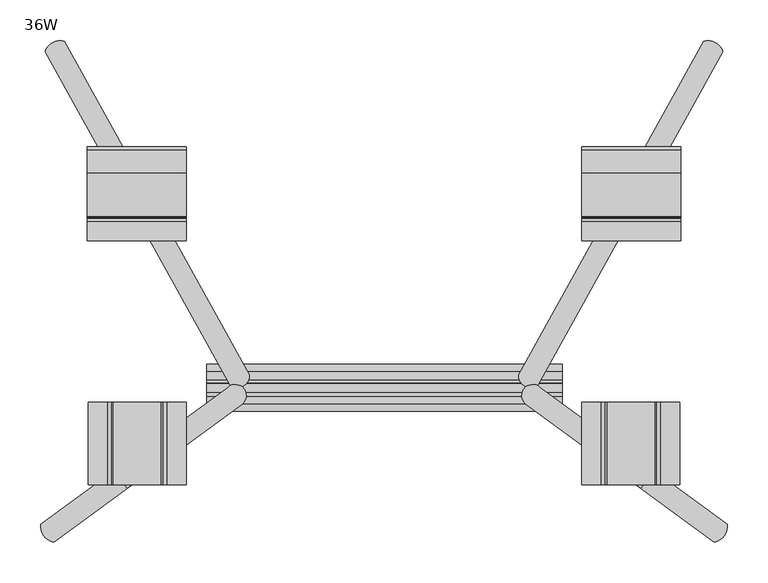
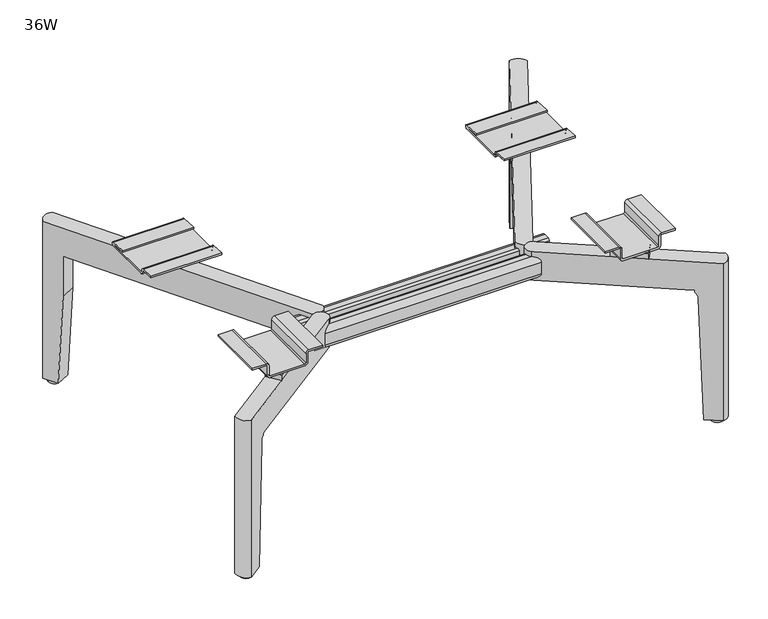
"""IFC4 building model written with IfcOpenShell, lengths in millimetres: furniture geometry, Steelcase Turnstone - Bivi - Seat - Rumble Seat - Freestanding Leg : 36W."""

from ifc_helpers import new_model, si_unit, point, frame, frame_2d, origin, place, context, project, spatial, polyline, circle_curve, ellipse_curve, trimmed, segment, composite_curve, outline, extrude, source, transform, mapped, element, save
from ifc_brep_helpers import plane_surface, cylinder_surface, revolved_surface, advanced_brep


def furniture_36w_9987a5bf(model_context):
    return source(origin(), model_context, "Body", "SolidModel", [
        advanced_brep(
        [(-295.1872157, 399.932442, 6.3507797), (-296.6305197, 399.6401574, 0.0), (-290.0695853, 403.2769427, 0.0), (-291.0822913, 402.2078387, 6.3507797), (-308.0517385, 409.6947013, 6.3507797), (-287.7791129, 409.6947013, 6.3507797), (-287.7791129, 409.6947013, 0.0), (-308.0517385, 409.6947013, 0.0)],
        [
            (0, 1, ellipse_curve(frame((-297.9154257, 409.6947013, -134.6670445), z_axis=(0.4836286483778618, -0.872489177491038, -0.06975647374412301), x_axis=(0.03381860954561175, -0.061010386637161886, 0.9975640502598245)), 145.3099945, 10.1363128)),
            (1, 2),
            (2, 3, ellipse_curve(frame((-297.9154257, 409.6947013, -134.6670445), z_axis=(0.4836286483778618, -0.872489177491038, -0.06975647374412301), x_axis=(0.03381860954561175, -0.061010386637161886, 0.9975640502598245)), 145.3099945, 10.1363128)),
            (3, 0),
            (4, 0, circle_curve(frame((-297.9154257, 409.6947013, 6.3507797), z_axis=(0.0, 0.0, 1.0), x_axis=(1.0, 0.0, 0.0)), 10.1363128)),
            (3, 5, circle_curve(frame((-297.9154257, 409.6947013, 6.3507797), z_axis=(0.0, 0.0, 1.0), x_axis=(1.0, 0.0, 0.0)), 10.1363128)),
            (5, 4, circle_curve(frame((-297.9154257, 409.6947013, 6.3507797), z_axis=(0.0, 0.0, 1.0), x_axis=(1.0, 0.0, 0.0)), 10.1363128)),
            (6, 2, circle_curve(frame((-297.9154257, 409.6947013, 0.0), z_axis=(0.0, 0.0, -1.0), x_axis=(1.0, 0.0, 0.0)), 10.1363128)),
            (1, 7, circle_curve(frame((-297.9154257, 409.6947013, 0.0), z_axis=(0.0, 0.0, -1.0), x_axis=(1.0, 0.0, 0.0)), 10.1363128)),
            (7, 6, circle_curve(frame((-297.9154257, 409.6947013, 0.0), z_axis=(0.0, 0.0, -1.0), x_axis=(1.0, 0.0, 0.0)), 10.1363128)),
            (6, 5),
            (4, 7),
        ],
        [
            plane_surface(frame((-19.1212018, 535.4370031, 225.5013372), z_axis=(0.4836286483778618, -0.872489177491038, -0.06975647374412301), x_axis=(-0.8746197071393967, -0.48480962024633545, 0.0))),
            plane_surface(frame((-294.0743526, -171.9895532, 6.3507797), z_axis=(0.0, 0.0, 1.0), x_axis=(0.0, -1.0, 0.0))),
            plane_surface(frame((-294.0743526, -171.9895532, 0.0), z_axis=(0.0, 0.0, -1.0), x_axis=(0.0, 1.0, 0.0))),
            cylinder_surface(frame((-297.9154257, 409.6947013, 0.0), z_axis=(0.0, 0.0, 1.0), x_axis=(1.0, 0.0, 0.0)), 10.1363128),
        ],
        [
            (0, [[1, 2, 3, 4]]),
            (1, [[5, -4, 6, 7]]),
            (2, [[8, -2, 9, 10]]),
            (3, [[-6, -3, -8, 11]]),
            (3, [[-9, -1, -5, 12]]),
            (3, [[-11, -10, -12, -7]]),
        ],
    ),
        advanced_brep(
        [(-313.7761001, -171.9895532, 6.3507797), (-294.0743526, -171.9895532, 6.3507797), (-313.7761001, -171.9895532, 0.0), (-294.0743526, -171.9895532, 0.0)],
        [
            (0, 1, circle_curve(frame((-303.9252263, -171.9895532, 6.3507797), z_axis=(0.0, 0.0, 1.0), x_axis=(1.0, 0.0, 0.0)), 9.8508738)),
            (1, 0, circle_curve(frame((-303.9252263, -171.9895532, 6.3507797), z_axis=(0.0, 0.0, 1.0), x_axis=(1.0, 0.0, 0.0)), 9.8508738)),
            (2, 3, circle_curve(frame((-303.9252263, -171.9895532, 0.0), z_axis=(0.0, 0.0, -1.0), x_axis=(1.0, 0.0, 0.0)), 9.8508738)),
            (3, 2, circle_curve(frame((-303.9252263, -171.9895532, 0.0), z_axis=(0.0, 0.0, -1.0), x_axis=(1.0, 0.0, 0.0)), 9.8508738)),
            (0, 2),
            (3, 1),
        ],
        [
            plane_surface(frame((-294.0743526, -171.9895532, 6.3507797), z_axis=(0.0, 0.0, 1.0), x_axis=(0.0, -1.0, 0.0))),
            plane_surface(frame((-294.0743526, -171.9895532, 0.0), z_axis=(0.0, 0.0, -1.0), x_axis=(0.0, 1.0, 0.0))),
            cylinder_surface(frame((-303.9252263, -171.9895532, 0.0), z_axis=(0.0, 0.0, 1.0), x_axis=(1.0, 0.0, 0.0)), 9.8508738),
        ],
        [
            (0, [[1, 2]]),
            (1, [[3, 4]]),
            (2, [[5, -4, 6, -1]]),
            (2, [[-6, -3, -5, -2]]),
        ],
    ),
        advanced_brep(
        [(-304.8986492, -189.9876549, 6.7022799), (-304.8986492, -189.9876549, 292.4522799), (-320.845595, -168.2156528, 292.4522799), (-320.845595, -168.2156528, 6.7022799), (-88.1480448, 2.2241264, 241.2086832), (-88.1480448, 2.2241264, 292.4522799), (-72.201099, -19.5478757, 292.4522799), (-72.201099, -19.5478757, 241.2086832), (-295.9739133, -149.9983405, 6.7022799), (-280.4910037, -172.1102269, 6.7022799), (-74.974437, -21.5792126, 241.2086832), (-258.411575, -155.9381058, 241.2086832), (-273.8944845, -133.8262194, 241.2086832), (-90.9213829, 0.1927895, 241.2086832), (-285.6160295, -142.4116881, 241.2086832), (-278.945345, -137.5257321, 241.2086832), (-263.4624355, -159.6376185, 241.2086832), (-269.6690837, -164.1836902, 241.2086832), (-74.974437, -21.5792126, 292.4522799), (-274.3260884, -167.5947225, 225.4829664), (-269.6690837, -164.1836902, 237.4952058), (-90.9213829, 0.1927895, 292.4522799), (-285.6160295, -142.4116881, 236.9772021), (-289.8089979, -145.4828361, 225.4829664)],
        [
            (0, 1),
            (1, 2, circle_curve(frame((-301.6756915, -170.9008062, 292.4522799), z_axis=(0.0, 0.0, -1.0), x_axis=(1.0, 0.0, 0.0)), 19.3570465)),
            (2, 3),
            (3, 0, circle_curve(frame((-301.6756915, -170.9008062, 6.7022799), z_axis=(0.0, 0.0, 1.0), x_axis=(1.0, 0.0, 0.0)), 19.3570465)),
            (4, 5),
            (5, 6, circle_curve(frame((-81.5612409, -9.6775431, 292.4522799), z_axis=(0.0, 0.0, -1.0), x_axis=(1.0, 0.0, 0.0)), 13.6027836)),
            (6, 7),
            (7, 4, circle_curve(frame((-81.5612409, -9.6775431, 241.2086832), z_axis=(0.0, 0.0, 1.0), x_axis=(1.0, 0.0, 0.0)), 13.6027836)),
            (3, 8),
            (8, 9),
            (9, 0),
            (7, 10),
            (10, 11),
            (11, 12),
            (12, 13),
            (13, 4),
            (14, 15),
            (15, 16),
            (16, 17),
            (17, 14),
            (6, 18),
            (18, 1),
            (9, 19),
            (19, 20, ellipse_curve(frame((-260.9370052, -157.7878621, 224.9035373), z_axis=(-0.5909011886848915, 0.8067439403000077, 0.0), x_axis=(0.8067439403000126, 0.5909011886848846, 0.0)), 16.6065634, 16.6027928)),
            (20, 17),
            (16, 11, ellipse_curve(frame((-260.9370052, -157.7878621, 224.9035373), z_axis=(-0.5909011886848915, 0.8067439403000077, 0.0), x_axis=(0.8067439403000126, 0.5909011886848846, 0.0)), 16.6065634, 16.6027928)),
            (5, 21),
            (21, 2),
            (12, 15, ellipse_curve(frame((-276.4199148, -135.6759757, 224.9035373), z_axis=(0.5909011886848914, -0.8067439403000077, 0.0), x_axis=(0.8067439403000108, 0.5909011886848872, 0.0)), 16.6065634, 16.6027928)),
            (14, 22),
            (22, 23, ellipse_curve(frame((-276.4199148, -135.6759757, 224.9035373), z_axis=(0.5909011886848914, -0.8067439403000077, 0.0), x_axis=(0.8067439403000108, 0.5909011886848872, 0.0)), 16.6065634, 16.6027928)),
            (23, 8),
            (20, 22, ellipse_curve(frame((30.4151608, -573.8818773, 224.9035373), z_axis=(-0.8067439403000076, -0.5909011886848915, 0.0), x_axis=(-0.5909011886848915, 0.8067439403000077, 0.0)), 779.1591647, 16.6027928)),
            (23, 19),
        ],
        [
            cylinder_surface(frame((-301.6756915, -170.9008062, 0.0), z_axis=(0.0, 0.0, -1.0), x_axis=(1.0, 0.0, 0.0)), 19.3570465),
            cylinder_surface(frame((-81.5612409, -9.6775431, 0.0), z_axis=(0.0, 0.0, -1.0), x_axis=(1.0, 0.0, 0.0)), 13.6027836),
            plane_surface(frame((-319.0720796, -183.4559971, 6.7022799), z_axis=(0.0, 0.0, -1.0), x_axis=(-0.5909011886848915, 0.8067439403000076, 0.0))),
            plane_surface(frame((-64.6320693, 19.448449, 241.2086832), z_axis=(0.0, 0.0, -1.0000000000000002), x_axis=(-0.8067439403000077, -0.5909011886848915, 0.0))),
            plane_surface(frame((-48.6851234, -2.3235531, 241.2086832), z_axis=(0.5909011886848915, -0.8067439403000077, 0.0), x_axis=(-0.8067439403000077, -0.5909011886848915, 0.0))),
            plane_surface(frame((-48.6851234, -2.3235531, 292.4522799), z_axis=(0.0, 0.0, 1.0), x_axis=(-0.8067439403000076, -0.5909011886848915, 0.0))),
            plane_surface(frame((-64.6320693, 19.448449, 292.4522799), z_axis=(-0.5909011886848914, 0.8067439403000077, 0.0), x_axis=(-0.8067439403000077, -0.5909011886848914, 0.0))),
            plane_surface(frame((-285.6160295, -142.4116881, 241.2086832), z_axis=(0.8067439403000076, 0.5909011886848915, 0.0), x_axis=(0.0, 0.0, -1.0))),
            plane_surface(frame((-456.8251095, 93.0408907, 225.4829664), z_axis=(0.818653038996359, 0.5732270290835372, -0.0348994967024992), x_axis=(0.5735764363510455, -0.8191520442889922, 0.0))),
            revolved_surface(polyline([(-263.02267036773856, -125.86313761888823, 224.9035373), (-247.13382624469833, -148.55475868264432, 224.9035373)]), (-67.9387786, -433.4178947, 224.9035373), (-0.5735764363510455, 0.8191520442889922, 0.0)),
            revolved_surface(polyline([(-402.790492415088, 73.74599884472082, 224.9035373), (490.8212374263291, -1202.463811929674, 224.9035373)]), (-67.9387786, -433.4178947, 224.9035373), (-0.5735764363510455, 0.8191520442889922, 0.0)),
        ],
        [
            (0, [[1, 2, 3, 4]]),
            (1, [[5, 6, 7, 8]]),
            (2, [[9, 10, 11, -4]]),
            (3, [[-8, 12, 13, 14, 15, 16]]),
            (3, [[17, 18, 19, 20]]),
            (4, [[-7, 21, 22, -1, -11, 23, 24, 25, -19, 26, -13, -12]]),
            (5, [[-21, -6, 27, 28, -2, -22]]),
            (6, [[-15, 29, -17, 30, 31, 32, -9, -3, -28, -27, -5, -16]]),
            (7, [[-25, 33, -30, -20]]),
            (8, [[-23, -10, -32, 34]]),
            (9, [[-29, -14, -26, -18]]),
            (10, [[-31, -33, -24, -34]]),
        ],
    ),
        advanced_brep(
        [(-291.6228363, 426.4865494, 6.7022799), (-278.6033284, 402.9987354, 6.7022799), (-302.2071278, 389.9149358, 6.7022799), (-315.2266357, 413.4027498, 6.7022799), (-274.4861118, 395.57108, 241.2086832), (-268.7486203, 385.2203713, 241.2086832), (-64.1143407, 16.0503586, 241.2086832), (-87.7181401, 2.966559, 241.2086832), (-292.3524196, 372.1365716, 241.2086832), (-298.0899112, 382.4872804, 241.2086832), (-64.1143407, 16.0503586, 292.4522799), (-274.4861118, 395.57108, 168.7476885), (-291.6228363, 426.4865494, 292.4522799), (-315.2266357, 413.4027498, 292.4522799), (-87.7181401, 2.966559, 292.4522799), (-298.0899112, 382.4872804, 168.7476885)],
        [
            (0, 1),
            (1, 2),
            (2, 3),
            (3, 0, circle_curve(frame((-296.8160983, 408.0223516, 6.7022799), z_axis=(0.0, 0.0, -1.0), x_axis=(1.0, 0.0, 0.0)), 19.1806301)),
            (4, 5),
            (5, 6),
            (6, 7, circle_curve(frame((-79.0045965, 15.0800008, 241.2086832), z_axis=(0.0, 0.0, -1.0), x_axis=(1.0, 0.0, 0.0)), 14.9218401)),
            (7, 8),
            (8, 9),
            (9, 4),
            (10, 6),
            (4, 11),
            (11, 1),
            (0, 12),
            (12, 10),
            (12, 13, circle_curve(frame((-296.8160983, 408.0223516, 292.4522799), z_axis=(0.0, 0.0, 1.0), x_axis=(1.0, 0.0, 0.0)), 19.1806301)),
            (13, 14),
            (14, 10, circle_curve(frame((-79.0045965, 15.0800008, 292.4522799), z_axis=(0.0, 0.0, 1.0), x_axis=(1.0, 0.0, 0.0)), 14.9218401)),
            (13, 3),
            (2, 15),
            (15, 9),
            (7, 14),
            (15, 11),
        ],
        [
            plane_surface(frame((-311.2632247, 433.7747682, 6.7022799), z_axis=(0.0, 0.0, -1.0000000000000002), x_axis=(-0.8746197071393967, -0.4848096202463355, 0.0))),
            plane_surface(frame((-46.3233291, -16.045476, 241.2086832), z_axis=(0.0, 0.0, -1.0), x_axis=(-0.48480962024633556, 0.8746197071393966, 0.0))),
            plane_surface(frame((-46.3233291, -16.045476, 292.4522799), z_axis=(0.8746197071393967, 0.48480962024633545, 0.0), x_axis=(-0.48480962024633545, 0.8746197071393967, 0.0))),
            plane_surface(frame((-69.9271285, -29.1292756, 292.4522799), z_axis=(0.0, 0.0, 1.0), x_axis=(-0.48480962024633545, 0.8746197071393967, 0.0))),
            plane_surface(frame((-69.9271285, -29.1292756, 241.2086832), z_axis=(-0.8746197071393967, -0.4848096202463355, 0.0), x_axis=(-0.4848096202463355, 0.8746197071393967, 0.0))),
            plane_surface(frame((-274.4861118, 395.57108, 241.2086832), z_axis=(0.48480962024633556, -0.8746197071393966, 0.0), x_axis=(0.0, 0.0, -1.0))),
            cylinder_surface(frame((-296.8160983, 408.0223516, 0.0), z_axis=(0.0, 0.0, -1.0), x_axis=(1.0, 0.0, 0.0)), 19.1806301),
            cylinder_surface(frame((-79.0045965, 15.0800008, 0.0), z_axis=(0.0, 0.0, -1.0), x_axis=(1.0, 0.0, 0.0)), 14.9218401),
            plane_surface(frame((-18.3942444, 534.1255371, 225.4824396), z_axis=(0.4841452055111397, -0.8734210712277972, -0.05233595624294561), x_axis=(-0.8746197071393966, -0.48480962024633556, 0.0))),
        ],
        [
            (0, [[1, 2, 3, 4]]),
            (1, [[5, 6, 7, 8, 9, 10]]),
            (2, [[11, -6, -5, 12, 13, -1, 14, 15]]),
            (3, [[16, 17, 18, -15]]),
            (4, [[19, -3, 20, 21, -9, -8, 22, -17]]),
            (5, [[-21, 23, -12, -10]]),
            (6, [[-19, -16, -14, -4]]),
            (7, [[-11, -18, -22, -7]]),
            (8, [[-13, -23, -20, -2]]),
        ],
    ),
        extrude(outline(polyline([(-207.5578492, 274.8292982), (-179.0259823, 223.3564477), (-202.134299, 210.5472986), (-230.6661659, 262.0201491), (-207.5578492, 274.8292982)])), frame((0.0, 0.0, 292.4522799), z_axis=(0.0, 0.0, 1.0), x_axis=(1.0, 0.0, 0.0)), (0.0, 0.0, 1.0), 9.681731),
        extrude(outline(polyline([(-183.4520912, -67.5815101), (-167.5051453, -89.3535122), (-214.4355659, -123.7277912), (-230.3825117, -101.9557892), (-183.4520912, -67.5815101)])), frame((0.0, 0.0, 292.4522799), z_axis=(0.0, 0.0, 1.0), x_axis=(1.0, 0.0, 0.0)), (0.0, 0.0, 1.0), 9.681731),
        extrude(outline(composite_curve([segment(polyline([(329.0146194, -238.8693137), (329.0146194, -262.2516146), (326.1962261, -262.2516146), (326.1962261, -236.8520022), (307.319003, -236.8520022)]), True, "CONTINUOUS"), segment(trimmed(circle_curve(frame_2d((307.319003, -231.6670101)), 5.1849921), [point((307.319003, -236.8520022))], [point((302.1340108, -231.6670101))], False, "CARTESIAN"), True, "CONTINUOUS"), segment(polyline([(302.1340108, -231.6670101), (302.1340108, -172.2542641)]), True, "CONTINUOUS"), segment(trimmed(circle_curve(frame_2d((307.319003, -172.2542641)), 5.1849921), [point((302.1340108, -172.2542641))], [point((307.319003, -167.069272))], False, "CARTESIAN"), True, "CONTINUOUS"), segment(polyline([(307.319003, -167.069272), (326.1962261, -167.069272), (326.1962261, -141.6696595), (329.0146194, -141.6696595), (329.0146194, -165.0519605)]), True, "CONTINUOUS"), segment(trimmed(circle_curve(frame_2d((323.9591212, -165.0519605)), 5.0554981), [point((329.0146194, -165.0519605))], [point((323.9591212, -170.1074586))], False, "CARTESIAN"), True, "CONTINUOUS"), segment(polyline([(323.9591212, -170.1074586), (307.4106461, -170.1074586)]), True, "CONTINUOUS"), segment(trimmed(circle_curve(frame_2d((307.4106461, -172.3462524)), 2.2387938), [point((307.4106461, -170.1074586))], [point((305.1718523, -172.3462524))], True, "CARTESIAN"), True, "CONTINUOUS"), segment(polyline([(305.1718523, -172.3462524), (305.1718523, -231.5750218)]), True, "CONTINUOUS"), segment(trimmed(circle_curve(frame_2d((307.4106461, -231.5750218)), 2.2387938), [point((305.1718523, -231.5750218))], [point((307.4106461, -233.8138155))], True, "CARTESIAN"), True, "CONTINUOUS"), segment(polyline([(307.4106461, -233.8138155), (323.9591212, -233.8138155)]), True, "CONTINUOUS"), segment(trimmed(circle_curve(frame_2d((323.9591212, -238.8693137)), 5.0554981), [point((323.9591212, -233.8138155))], [point((329.0146194, -238.8693137))], False, "CARTESIAN"), True, "CONTINUOUS")], self_intersect=False)), frame((0.0, -119.6808622, 0.0), z_axis=(0.0, 1.0, 0.0), x_axis=(0.0, 0.0, 1.0)), (0.0, 0.0, 1.0), 101.810408),
        extrude(outline(composite_curve([segment(polyline([(210.5472986, 305.1718523), (293.0972986, 305.1718523)]), True, "CONTINUOUS"), segment(trimmed(circle_curve(frame_2d((293.0706733, 305.6798944)), 0.5087393), [point((293.0972986, 305.1718523))], [point((293.0972986, 306.1879364))], True, "CARTESIAN"), True, "CONTINUOUS"), segment(polyline([(293.0972986, 306.1879364), (264.6966329, 307.6763522), (264.6966329, 310.6138209), (293.0972986, 309.1254051)]), True, "CONTINUOUS"), segment(trimmed(circle_curve(frame_2d((292.9140969, 305.629708)), 3.5004944), [point((293.0972986, 309.1254051))], [point((293.0972986, 302.1340108))], False, "CARTESIAN"), True, "CONTINUOUS"), segment(polyline([(293.0972986, 302.1340108), (210.5472986, 302.1340108)]), True, "CONTINUOUS"), segment(trimmed(circle_curve(frame_2d((210.5472986, 306.5928983)), 4.4588874), [point((210.5472986, 302.1340108))], [point((206.0896008, 306.6958872))], False, "CARTESIAN"), True, "CONTINUOUS"), segment(polyline([(206.0896008, 306.6958872), (206.0896008, 308.9892465)]), True, "CONTINUOUS"), segment(trimmed(circle_curve(frame_2d((204.5626663, 308.9892465)), 1.5269345), [point((206.0896008, 308.9892465))], [point((204.6399799, 310.5142224))], True, "CARTESIAN"), True, "CONTINUOUS"), segment(polyline([(204.6399799, 310.5142224), (181.1002415, 311.7478878), (181.1002415, 314.6691166), (204.5350283, 313.4409515)]), True, "CONTINUOUS"), segment(trimmed(circle_curve(frame_2d((204.2966829, 308.8930489)), 4.5541438), [point((204.5350283, 313.4409515))], [point((208.6006854, 310.3816014))], False, "CARTESIAN"), True, "CONTINUOUS"), segment(trimmed(circle_curve(frame_2d((199.2165598, 307.1360729)), 9.9295149), [point((208.6006854, 310.3816014))], [point((209.1329432, 306.625575))], False, "CARTESIAN"), True, "CONTINUOUS"), segment(trimmed(circle_curve(frame_2d((211.0902359, 307.1149751)), 2.0175498), [point((209.1329432, 306.625575))], [point((210.5472986, 305.1718523))], True, "CARTESIAN"), True, "CONTINUOUS")], self_intersect=False)), frame((-263.3362585, 0.0, 0.0), z_axis=(1.0, 0.0, 0.0), x_axis=(0.0, 1.0, 0.0)), (0.0, 0.0, 1.0), 121.840912),
        advanced_brep(
        [(498.4122412, 399.932442, 6.3507797), (494.3073168, 402.2078387, 6.3507797), (493.2946108, 403.2769427, 0.0), (499.8555451, 399.6401574, 0.0), (511.276764, 409.6947013, 6.3507797), (491.0041384, 409.6947013, 6.3507797), (491.0041384, 409.6947013, 0.0), (511.276764, 409.6947013, 0.0)],
        [
            (0, 1),
            (1, 2, ellipse_curve(frame((501.1404512, 409.6947013, -134.6670445), z_axis=(-0.4836286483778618, -0.872489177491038, -0.06975647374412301), x_axis=(-0.03381860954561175, -0.061010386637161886, 0.9975640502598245)), 145.3099945, 10.1363128)),
            (2, 3),
            (3, 0, ellipse_curve(frame((501.1404512, 409.6947013, -134.6670445), z_axis=(-0.4836286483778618, -0.872489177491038, -0.06975647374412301), x_axis=(-0.03381860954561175, -0.061010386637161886, 0.9975640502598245)), 145.3099945, 10.1363128)),
            (4, 5, circle_curve(frame((501.1404512, 409.6947013, 6.3507797), z_axis=(0.0, 0.0, 1.0), x_axis=(-1.0, 0.0, 0.0)), 10.1363128)),
            (5, 1, circle_curve(frame((501.1404512, 409.6947013, 6.3507797), z_axis=(0.0, 0.0, 1.0), x_axis=(-1.0, 0.0, 0.0)), 10.1363128)),
            (0, 4, circle_curve(frame((501.1404512, 409.6947013, 6.3507797), z_axis=(0.0, 0.0, 1.0), x_axis=(-1.0, 0.0, 0.0)), 10.1363128)),
            (6, 7, circle_curve(frame((501.1404512, 409.6947013, 0.0), z_axis=(0.0, 0.0, -1.0), x_axis=(-1.0, 0.0, 0.0)), 10.1363128)),
            (7, 3, circle_curve(frame((501.1404512, 409.6947013, 0.0), z_axis=(0.0, 0.0, -1.0), x_axis=(-1.0, 0.0, 0.0)), 10.1363128)),
            (2, 6, circle_curve(frame((501.1404512, 409.6947013, 0.0), z_axis=(0.0, 0.0, -1.0), x_axis=(-1.0, 0.0, 0.0)), 10.1363128)),
            (5, 6),
            (7, 4),
        ],
        [
            plane_surface(frame((222.3462273, 535.4370031, 225.5013372), z_axis=(-0.4836286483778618, -0.872489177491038, -0.06975647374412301), x_axis=(0.8746197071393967, -0.48480962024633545, 0.0))),
            plane_surface(frame((497.299378, -171.9895532, 6.3507797), z_axis=(0.0, 0.0, 1.0), x_axis=(0.0, -1.0, 0.0))),
            plane_surface(frame((497.299378, -171.9895532, 0.0), z_axis=(0.0, 0.0, -1.0), x_axis=(0.0, 1.0, 0.0))),
            cylinder_surface(frame((501.1404512, 409.6947013, 0.0), z_axis=(0.0, 0.0, 1.0), x_axis=(-1.0, 0.0, 0.0)), 10.1363128),
        ],
        [
            (0, [[1, 2, 3, 4]]),
            (1, [[5, 6, -1, 7]]),
            (2, [[8, 9, -3, 10]]),
            (3, [[11, -10, -2, -6]]),
            (3, [[12, -7, -4, -9]]),
            (3, [[-5, -12, -8, -11]]),
        ],
    ),
        advanced_brep(
        [(517.0011255, -171.9895532, 6.3507797), (497.299378, -171.9895532, 6.3507797), (517.0011255, -171.9895532, 0.0), (497.299378, -171.9895532, 0.0)],
        [
            (0, 1, circle_curve(frame((507.1502518, -171.9895532, 6.3507797), z_axis=(0.0, 0.0, 1.0), x_axis=(-1.0, 0.0, 0.0)), 9.8508738)),
            (1, 0, circle_curve(frame((507.1502518, -171.9895532, 6.3507797), z_axis=(0.0, 0.0, 1.0), x_axis=(-1.0, 0.0, 0.0)), 9.8508738)),
            (2, 3, circle_curve(frame((507.1502518, -171.9895532, 0.0), z_axis=(0.0, 0.0, -1.0), x_axis=(-1.0, 0.0, 0.0)), 9.8508738)),
            (3, 2, circle_curve(frame((507.1502518, -171.9895532, 0.0), z_axis=(0.0, 0.0, -1.0), x_axis=(-1.0, 0.0, 0.0)), 9.8508738)),
            (1, 3),
            (2, 0),
        ],
        [
            plane_surface(frame((497.299378, -171.9895532, 6.3507797), z_axis=(0.0, 0.0, 1.0), x_axis=(0.0, -1.0, 0.0))),
            plane_surface(frame((497.299378, -171.9895532, 0.0), z_axis=(0.0, 0.0, -1.0), x_axis=(0.0, 1.0, 0.0))),
            cylinder_surface(frame((507.1502518, -171.9895532, 0.0), z_axis=(0.0, 0.0, 1.0), x_axis=(-1.0, 0.0, 0.0)), 9.8508738),
        ],
        [
            (0, [[1, 2]]),
            (1, [[3, 4]]),
            (2, [[-2, 5, -3, 6]]),
            (2, [[-1, -6, -4, -5]]),
        ],
    ),
        advanced_brep(
        [(508.1236747, -189.9876549, 6.7022799), (524.0706205, -168.2156528, 6.7022799), (524.0706205, -168.2156528, 292.4522799), (508.1236747, -189.9876549, 292.4522799), (291.3730703, 2.2241264, 241.2086832), (275.4261244, -19.5478757, 241.2086832), (275.4261244, -19.5478757, 292.4522799), (291.3730703, 2.2241264, 292.4522799), (483.7160292, -172.1102269, 6.7022799), (499.1989387, -149.9983405, 6.7022799), (488.8410549, -142.4116881, 241.2086832), (472.8941091, -164.1836902, 241.2086832), (466.6874609, -159.6376185, 241.2086832), (482.1703705, -137.5257321, 241.2086832), (294.1464083, 0.1927895, 241.2086832), (477.11951, -133.8262194, 241.2086832), (461.6366005, -155.9381058, 241.2086832), (278.1994625, -21.5792126, 241.2086832), (472.8941091, -164.1836902, 237.4952058), (477.5511139, -167.5947225, 225.4829664), (278.1994625, -21.5792126, 292.4522799), (294.1464083, 0.1927895, 292.4522799), (493.0340234, -145.4828361, 225.4829664), (488.8410549, -142.4116881, 236.9772021)],
        [
            (0, 1, circle_curve(frame((504.900717, -170.9008062, 6.7022799), z_axis=(0.0, 0.0, 1.0), x_axis=(-1.0, 0.0, 0.0)), 19.3570465)),
            (1, 2),
            (2, 3, circle_curve(frame((504.900717, -170.9008062, 292.4522799), z_axis=(0.0, 0.0, -1.0), x_axis=(-1.0, 0.0, 0.0)), 19.3570465)),
            (3, 0),
            (4, 5, circle_curve(frame((284.7862664, -9.6775431, 241.2086832), z_axis=(0.0, 0.0, 1.0), x_axis=(-1.0, 0.0, 0.0)), 13.6027836)),
            (5, 6),
            (6, 7, circle_curve(frame((284.7862664, -9.6775431, 292.4522799), z_axis=(0.0, 0.0, -1.0), x_axis=(-1.0, 0.0, 0.0)), 13.6027836)),
            (7, 4),
            (0, 8),
            (8, 9),
            (9, 1),
            (10, 11),
            (11, 12),
            (12, 13),
            (13, 10),
            (4, 14),
            (14, 15),
            (15, 16),
            (16, 17),
            (17, 5),
            (16, 12, ellipse_curve(frame((464.1620307, -157.7878621, 224.9035373), z_axis=(0.5909011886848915, 0.8067439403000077, 0.0), x_axis=(-0.8067439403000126, 0.5909011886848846, 0.0)), 16.6065634, 16.6027928)),
            (11, 18),
            (18, 19, ellipse_curve(frame((464.1620307, -157.7878621, 224.9035373), z_axis=(0.5909011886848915, 0.8067439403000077, 0.0), x_axis=(-0.8067439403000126, 0.5909011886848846, 0.0)), 16.6065634, 16.6027928)),
            (19, 8),
            (3, 20),
            (20, 6),
            (2, 21),
            (21, 7),
            (9, 22),
            (22, 23, ellipse_curve(frame((479.6449402, -135.6759757, 224.9035373), z_axis=(-0.5909011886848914, -0.8067439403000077, 0.0), x_axis=(-0.8067439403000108, 0.5909011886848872, 0.0)), 16.6065634, 16.6027928)),
            (23, 10),
            (13, 15, ellipse_curve(frame((479.6449402, -135.6759757, 224.9035373), z_axis=(-0.5909011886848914, -0.8067439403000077, 0.0), x_axis=(-0.8067439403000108, 0.5909011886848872, 0.0)), 16.6065634, 16.6027928)),
            (23, 18, ellipse_curve(frame((172.8098646, -573.8818773, 224.9035373), z_axis=(0.8067439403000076, -0.5909011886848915, 0.0), x_axis=(0.5909011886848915, 0.8067439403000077, 0.0)), 779.1591647, 16.6027928)),
            (19, 22),
        ],
        [
            cylinder_surface(frame((504.900717, -170.9008062, 0.0), z_axis=(0.0, 0.0, -1.0), x_axis=(-1.0, 0.0, 0.0)), 19.3570465),
            cylinder_surface(frame((284.7862664, -9.6775431, 0.0), z_axis=(0.0, 0.0, -1.0), x_axis=(-1.0, 0.0, 0.0)), 13.6027836),
            plane_surface(frame((522.297105, -183.4559971, 6.7022799), z_axis=(0.0, 0.0, -1.0), x_axis=(0.5909011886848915, 0.8067439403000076, 0.0))),
            plane_surface(frame((267.8570947, 19.448449, 241.2086832), z_axis=(0.0, 0.0, -1.0000000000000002), x_axis=(0.8067439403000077, -0.5909011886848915, 0.0))),
            plane_surface(frame((251.9101489, -2.3235531, 241.2086832), z_axis=(-0.5909011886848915, -0.8067439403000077, 0.0), x_axis=(0.8067439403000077, -0.5909011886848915, 0.0))),
            plane_surface(frame((251.9101489, -2.3235531, 292.4522799), z_axis=(0.0, 0.0, 1.0), x_axis=(0.8067439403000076, -0.5909011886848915, 0.0))),
            plane_surface(frame((267.8570947, 19.448449, 292.4522799), z_axis=(0.5909011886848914, 0.8067439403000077, 0.0), x_axis=(0.8067439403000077, -0.5909011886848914, 0.0))),
            plane_surface(frame((488.8410549, -142.4116881, 241.2086832), z_axis=(-0.8067439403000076, 0.5909011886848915, 0.0), x_axis=(0.0, 0.0, -1.0))),
            plane_surface(frame((660.0501349, 93.0408907, 225.4829664), z_axis=(-0.818653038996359, 0.5732270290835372, -0.0348994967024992), x_axis=(-0.5735764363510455, -0.8191520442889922, 0.0))),
            revolved_surface(polyline([(466.24769583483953, -125.86313766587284, 224.9035373), (450.3588517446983, -148.55475868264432, 224.9035373)]), (271.1638041, -433.4178947, 224.9035373), (0.5735764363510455, 0.8191520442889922, 0.0)),
            revolved_surface(polyline([(606.015517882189, 73.74599879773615, 224.9035373), (-287.59621195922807, -1202.4638119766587, 224.9035373)]), (271.1638041, -433.4178947, 224.9035373), (0.5735764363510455, 0.8191520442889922, 0.0)),
        ],
        [
            (0, [[1, 2, 3, 4]]),
            (1, [[5, 6, 7, 8]]),
            (2, [[-1, 9, 10, 11]]),
            (3, [[12, 13, 14, 15]]),
            (3, [[16, 17, 18, 19, 20, -5]]),
            (4, [[-20, -19, 21, -13, 22, 23, 24, -9, -4, 25, 26, -6]]),
            (5, [[-25, -3, 27, 28, -7, -26]]),
            (6, [[-16, -8, -28, -27, -2, -11, 29, 30, 31, -15, 32, -17]]),
            (7, [[-12, -31, 33, -22]]),
            (8, [[34, -29, -10, -24]]),
            (9, [[-14, -21, -18, -32]]),
            (10, [[-34, -23, -33, -30]]),
        ],
    ),
        advanced_brep(
        [(494.8478618, 426.4865494, 6.7022799), (518.4516611, 413.4027498, 6.7022799), (505.4321532, 389.9149358, 6.7022799), (481.8283539, 402.9987354, 6.7022799), (477.7111373, 395.57108, 241.2086832), (501.3149366, 382.4872804, 241.2086832), (495.5774451, 372.1365716, 241.2086832), (290.9431655, 2.966559, 241.2086832), (267.3393662, 16.0503586, 241.2086832), (471.9736457, 385.2203713, 241.2086832), (267.3393662, 16.0503586, 292.4522799), (494.8478618, 426.4865494, 292.4522799), (477.7111373, 395.57108, 168.7476885), (290.9431655, 2.966559, 292.4522799), (518.4516611, 413.4027498, 292.4522799), (501.3149366, 382.4872804, 168.7476885)],
        [
            (0, 1, circle_curve(frame((500.0411238, 408.0223516, 6.7022799), z_axis=(0.0, 0.0, -1.0), x_axis=(-1.0, 0.0, 0.0)), 19.1806301)),
            (1, 2),
            (2, 3),
            (3, 0),
            (4, 5),
            (5, 6),
            (6, 7),
            (7, 8, circle_curve(frame((282.229622, 15.0800008, 241.2086832), z_axis=(0.0, 0.0, -1.0), x_axis=(-1.0, 0.0, 0.0)), 14.9218401)),
            (8, 9),
            (9, 4),
            (10, 11),
            (11, 0),
            (3, 12),
            (12, 4),
            (8, 10),
            (10, 13, circle_curve(frame((282.229622, 15.0800008, 292.4522799), z_axis=(0.0, 0.0, 1.0), x_axis=(-1.0, 0.0, 0.0)), 14.9218401)),
            (13, 14),
            (14, 11, circle_curve(frame((500.0411238, 408.0223516, 292.4522799), z_axis=(0.0, 0.0, 1.0), x_axis=(-1.0, 0.0, 0.0)), 19.1806301)),
            (13, 7),
            (5, 15),
            (15, 2),
            (1, 14),
            (12, 15),
        ],
        [
            plane_surface(frame((514.4882502, 433.7747682, 6.7022799), z_axis=(0.0, 0.0, -1.0000000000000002), x_axis=(0.8746197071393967, -0.4848096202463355, 0.0))),
            plane_surface(frame((249.5483546, -16.045476, 241.2086832), z_axis=(0.0, 0.0, -1.0), x_axis=(0.48480962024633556, 0.8746197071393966, 0.0))),
            plane_surface(frame((249.5483546, -16.045476, 292.4522799), z_axis=(-0.8746197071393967, 0.48480962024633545, 0.0), x_axis=(0.48480962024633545, 0.8746197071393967, 0.0))),
            plane_surface(frame((273.1521539, -29.1292756, 292.4522799), z_axis=(0.0, 0.0, 1.0), x_axis=(0.48480962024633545, 0.8746197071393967, 0.0))),
            plane_surface(frame((273.1521539, -29.1292756, 241.2086832), z_axis=(0.8746197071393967, -0.4848096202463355, 0.0), x_axis=(0.4848096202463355, 0.8746197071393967, 0.0))),
            plane_surface(frame((477.7111373, 395.57108, 241.2086832), z_axis=(-0.48480962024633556, -0.8746197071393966, 0.0), x_axis=(0.0, 0.0, -1.0))),
            cylinder_surface(frame((500.0411238, 408.0223516, 0.0), z_axis=(0.0, 0.0, -1.0), x_axis=(-1.0, 0.0, 0.0)), 19.1806301),
            cylinder_surface(frame((282.229622, 15.0800008, 0.0), z_axis=(0.0, 0.0, -1.0), x_axis=(-1.0, 0.0, 0.0)), 14.9218401),
            plane_surface(frame((221.6192699, 534.1255371, 225.4824396), z_axis=(-0.4841452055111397, -0.8734210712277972, -0.05233595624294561), x_axis=(0.8746197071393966, -0.48480962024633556, 0.0))),
        ],
        [
            (0, [[1, 2, 3, 4]]),
            (1, [[5, 6, 7, 8, 9, 10]]),
            (2, [[11, 12, -4, 13, 14, -10, -9, 15]]),
            (3, [[-11, 16, 17, 18]]),
            (4, [[-17, 19, -7, -6, 20, 21, -2, 22]]),
            (5, [[-5, -14, 23, -20]]),
            (6, [[-1, -12, -18, -22]]),
            (7, [[-8, -19, -16, -15]]),
            (8, [[-3, -21, -23, -13]]),
        ],
    ),
        extrude(outline(polyline([(410.7828747, 274.8292982), (433.8911914, 262.0201491), (405.3593245, 210.5472986), (382.2510078, 223.3564477), (410.7828747, 274.8292982)])), frame((0.0, 0.0, 292.4522799), z_axis=(0.0, 0.0, 1.0), x_axis=(1.0, 0.0, 0.0)), (0.0, 0.0, 1.0), 9.681731),
        extrude(outline(polyline([(386.6771166, -67.5815101), (433.6075372, -101.9557892), (417.6605913, -123.7277912), (370.7301708, -89.3535122), (386.6771166, -67.5815101)])), frame((0.0, 0.0, 292.4522799), z_axis=(0.0, 0.0, 1.0), x_axis=(1.0, 0.0, 0.0)), (0.0, 0.0, 1.0), 9.681731),
        extrude(outline(composite_curve([segment(trimmed(circle_curve(frame_2d((323.9591212, 442.0943391)), 5.0554981), [point((329.0146194, 442.0943391))], [point((323.9591212, 437.038841))], False, "CARTESIAN"), True, "CONTINUOUS"), segment(polyline([(323.9591212, 437.038841), (307.4106461, 437.038841)]), True, "CONTINUOUS"), segment(trimmed(circle_curve(frame_2d((307.4106461, 434.8000472)), 2.2387938), [point((307.4106461, 437.038841))], [point((305.1718523, 434.8000472))], True, "CARTESIAN"), True, "CONTINUOUS"), segment(polyline([(305.1718523, 434.8000472), (305.1718523, 375.5712778)]), True, "CONTINUOUS"), segment(trimmed(circle_curve(frame_2d((307.4106461, 375.5712778)), 2.2387938), [point((305.1718523, 375.5712778))], [point((307.4106461, 373.3324841))], True, "CARTESIAN"), True, "CONTINUOUS"), segment(polyline([(307.4106461, 373.3324841), (323.9591212, 373.3324841)]), True, "CONTINUOUS"), segment(trimmed(circle_curve(frame_2d((323.9591212, 368.276986)), 5.0554981), [point((323.9591212, 373.3324841))], [point((329.0146194, 368.276986))], False, "CARTESIAN"), True, "CONTINUOUS"), segment(polyline([(329.0146194, 368.276986), (329.0146194, 344.894685), (326.1962261, 344.894685), (326.1962261, 370.2942974), (307.319003, 370.2942974)]), True, "CONTINUOUS"), segment(trimmed(circle_curve(frame_2d((307.319003, 375.4792896)), 5.1849921), [point((307.319003, 370.2942974))], [point((302.1340108, 375.4792896))], False, "CARTESIAN"), True, "CONTINUOUS"), segment(polyline([(302.1340108, 375.4792896), (302.1340108, 434.8920355)]), True, "CONTINUOUS"), segment(trimmed(circle_curve(frame_2d((307.319003, 434.8920355)), 5.1849921), [point((302.1340108, 434.8920355))], [point((307.319003, 440.0770277))], False, "CARTESIAN"), True, "CONTINUOUS"), segment(polyline([(307.319003, 440.0770277), (326.1962261, 440.0770277), (326.1962261, 465.4766401), (329.0146194, 465.4766401), (329.0146194, 442.0943391)]), True, "CONTINUOUS")], self_intersect=False)), frame((0.0, -119.6808622, 0.0), z_axis=(0.0, 1.0, 0.0), x_axis=(0.0, 0.0, 1.0)), (0.0, 0.0, 1.0), 101.810408),
        extrude(outline(composite_curve([segment(polyline([(210.5472986, 305.1718523), (293.0972986, 305.1718523)]), True, "CONTINUOUS"), segment(trimmed(circle_curve(frame_2d((293.0706733, 305.6798944)), 0.5087393), [point((293.0972986, 305.1718523))], [point((293.0972986, 306.1879364))], True, "CARTESIAN"), True, "CONTINUOUS"), segment(polyline([(293.0972986, 306.1879364), (264.6966329, 307.6763522), (264.6966329, 310.6138209), (293.0972986, 309.1254051)]), True, "CONTINUOUS"), segment(trimmed(circle_curve(frame_2d((292.9140969, 305.629708)), 3.5004944), [point((293.0972986, 309.1254051))], [point((293.0972986, 302.1340108))], False, "CARTESIAN"), True, "CONTINUOUS"), segment(polyline([(293.0972986, 302.1340108), (210.5472986, 302.1340108)]), True, "CONTINUOUS"), segment(trimmed(circle_curve(frame_2d((210.5472986, 306.5928983)), 4.4588874), [point((210.5472986, 302.1340108))], [point((206.0896008, 306.6958872))], False, "CARTESIAN"), True, "CONTINUOUS"), segment(polyline([(206.0896008, 306.6958872), (206.0896008, 308.9892465)]), True, "CONTINUOUS"), segment(trimmed(circle_curve(frame_2d((204.5626663, 308.9892465)), 1.5269345), [point((206.0896008, 308.9892465))], [point((204.6399799, 310.5142224))], True, "CARTESIAN"), True, "CONTINUOUS"), segment(polyline([(204.6399799, 310.5142224), (181.1002415, 311.7478878), (181.1002415, 314.6691166), (204.5350283, 313.4409515)]), True, "CONTINUOUS"), segment(trimmed(circle_curve(frame_2d((204.2966829, 308.8930489)), 4.5541438), [point((204.5350283, 313.4409515))], [point((208.6006854, 310.3816014))], False, "CARTESIAN"), True, "CONTINUOUS"), segment(trimmed(circle_curve(frame_2d((199.2165598, 307.1360729)), 9.9295149), [point((208.6006854, 310.3816014))], [point((209.1329432, 306.625575))], False, "CARTESIAN"), True, "CONTINUOUS"), segment(trimmed(circle_curve(frame_2d((211.0902359, 307.1149751)), 2.0175498), [point((209.1329432, 306.625575))], [point((210.5472986, 305.1718523))], True, "CARTESIAN"), True, "CONTINUOUS")], self_intersect=False)), frame((344.7203719, 0.0, 0.0), z_axis=(1.0, 0.0, 0.0), x_axis=(0.0, 1.0, 0.0)), (0.0, 0.0, 1.0), 121.840912),
        extrude(outline(composite_curve([segment(trimmed(circle_curve(frame_2d((-20.3378129, 254.2147965)), 8.636), [point((-20.3378129, 245.5787965))], [point((-28.9738129, 254.2147965))], False, "CARTESIAN"), True, "CONTINUOUS"), segment(polyline([(-28.9738129, 254.2147965), (-28.9738129, 275.4001954)]), True, "CONTINUOUS"), segment(trimmed(circle_curve(frame_2d((-20.4106361, 275.4001954)), 8.5631768), [point((-28.9738129, 275.4001954))], [point((-20.4106361, 283.9633721))], False, "CARTESIAN"), True, "CONTINUOUS"), segment(polyline([(-20.4106361, 283.9633721), (-10.2364808, 283.9633721)]), True, "CONTINUOUS"), segment(trimmed(circle_curve(frame_2d((-10.2364808, 280.2341976)), 3.7291745), [point((-10.2364808, 283.9633721))], [point((-6.5073063, 280.2341976))], False, "CARTESIAN"), True, "CONTINUOUS"), segment(polyline([(-6.5073063, 280.2341976), (-6.5073063, 272.004994)]), True, "CONTINUOUS"), segment(trimmed(circle_curve(frame_2d((-5.6231544, 272.004994)), 0.8841519), [point((-6.5073063, 272.004994))], [point((-5.6231544, 271.1208421))], True, "CARTESIAN"), True, "CONTINUOUS"), segment(polyline([(-5.6231544, 271.1208421), (5.3044616, 271.1208421)]), True, "CONTINUOUS"), segment(trimmed(circle_curve(frame_2d((5.3044616, 272.0093164)), 0.8884743), [point((5.3044616, 271.1208421))], [point((6.1929359, 272.0093164))], True, "CARTESIAN"), True, "CONTINUOUS"), segment(polyline([(6.1929359, 272.0093164), (6.1929359, 280.5727521)]), True, "CONTINUOUS"), segment(trimmed(circle_curve(frame_2d((9.583556, 280.5727521)), 3.3906201), [point((6.1929359, 280.5727521))], [point((9.583556, 283.9633721))], False, "CARTESIAN"), True, "CONTINUOUS"), segment(polyline([(9.583556, 283.9633721), (20.0402872, 283.9633721)]), True, "CONTINUOUS"), segment(trimmed(circle_curve(frame_2d((20.0402872, 275.3443622)), 8.61901), [point((20.0402872, 283.9633721))], [point((28.6592972, 275.3443622))], False, "CARTESIAN"), True, "CONTINUOUS"), segment(polyline([(28.6592972, 275.3443622), (28.6592972, 254.2877832)]), True, "CONTINUOUS"), segment(trimmed(circle_curve(frame_2d((19.9503104, 254.2877832)), 8.7089867), [point((28.6592972, 254.2877832))], [point((19.9503104, 245.5787965))], False, "CARTESIAN"), True, "CONTINUOUS"), segment(polyline([(19.9503104, 245.5787965), (-20.3378129, 245.5787965)]), True, "CONTINUOUS")], self_intersect=False)), frame((-116.383774, 0.0, 0.0), z_axis=(1.0, 0.0, 0.0), x_axis=(0.0, 1.0, 0.0)), (0.0, 0.0, 1.0), 437.3607753),
    ])


if __name__ == "__main__":
    model = new_model("IFC4")
    model_context = context("Model", 3, world=origin())
    ifc_project = project(units=[si_unit("LENGTHUNIT", "METRE", prefix="MILLI")], contexts=[model_context])
    site = spatial("IfcSite", under=ifc_project)
    building = spatial("IfcBuilding", under=site)
    placement = place(None, origin())
    furniture_36w_shape = furniture_36w_9987a5bf(model_context)
    element("IfcFurniture", 1, ObjectType="Steelcase Turnstone - Bivi - Seat - Rumble Seat - Freestanding Leg : 36W", at=placement, inside=building, context=model_context, shape_type="MappedRepresentation", body=[
        mapped(furniture_36w_shape, transform((0.0, 0.0, 0.0), x_axis=(1.0, 0.0, 0.0), y_axis=(0.0, 1.0, 0.0), z_axis=(0.0, 0.0, 1.0))),
    ])
    save(model, "model.ifc")
